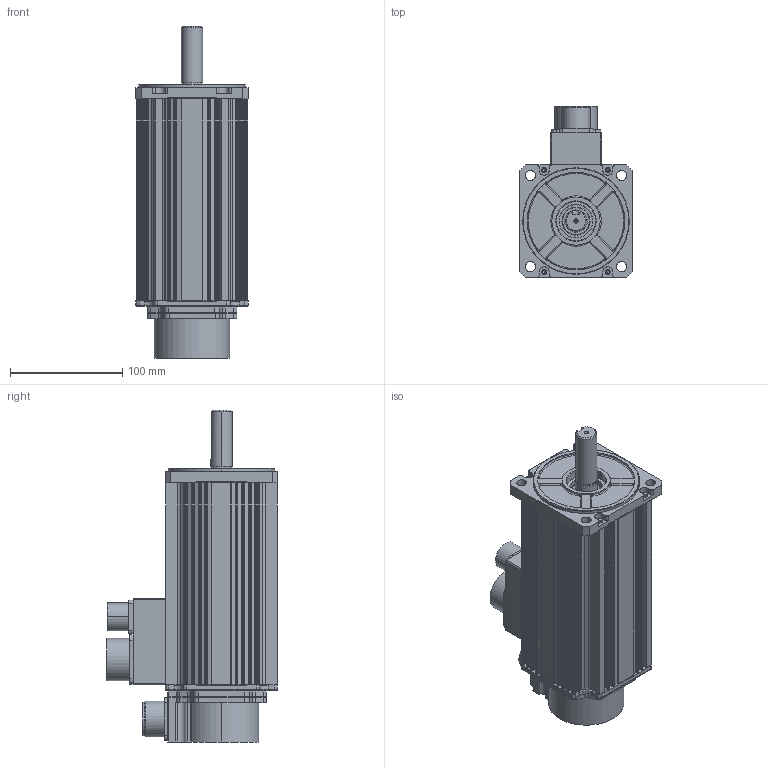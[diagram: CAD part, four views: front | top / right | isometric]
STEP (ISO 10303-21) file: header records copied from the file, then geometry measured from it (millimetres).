
FILE_DESCRIPTION (( 'STEP AP214' ), '1' );
FILE_NAME ('KANS-20D¡à1B2.STEP', '2026-09-12T01:17:28', ( '' ), ( '' ), 'SwSTEP 2.0', 'SolidWorks 2023', '' );
FILE_SCHEMA (( 'AUTOMOTIVE_DESIGN' ));
Length unit declared in the file: millimetre
Products named in the file (11): 10060024(ENCODER COVER ADAPTOR,□100,□120); □100-180mm; MS3102A 20-29P; KANS-20D□1B2; MS3102A 24_표준; Ø19-KEY6X42; 10010168 CONNECTOR BOX_MS24, MS14; 1006002202 ENCODER COVER; □100 FLANGE; MS3102A 14-2P; □100 BRACKET_BR
Assembly tree (10 placements, depth 2):
  KANS-20D□1B2
    □100-180mm
    □100 FLANGE
    □100 BRACKET_BR
    10060024(ENCODER COVER ADAPTOR,□100,□120)
    1006002202 ENCODER COVER
    MS3102A 20-29P
    Ø19-KEY6X42
    10010168 CONNECTOR BOX_MS24, MS14
    MS3102A 24_표준
    MS3102A 14-2P
Bounding box: 100 x 152.42 x 296 mm (x, y, z)
Volume: 561706.4 mm3; surface area: 315816.2 mm2
Topology: 10 solids, 10 shells, 1757 faces, 4844 edges, 3130 vertices
Faces by surface type: cylinder 788, plane 762, torus 72, cone 70, bspline 35, sphere 30
Entity records: 57810 total; most frequent: CARTESIAN_POINT 11550, DIRECTION 9975, ORIENTED_EDGE 9564, EDGE_CURVE 4782, AXIS2_PLACEMENT_3D 3593, VERTEX_POINT 3122, VECTOR 2789, LINE 2789
